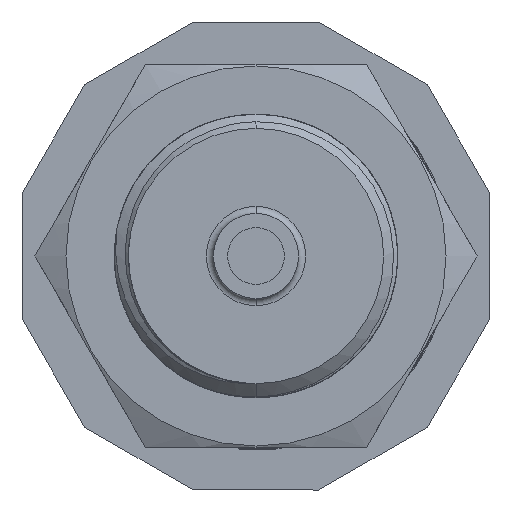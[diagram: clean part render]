
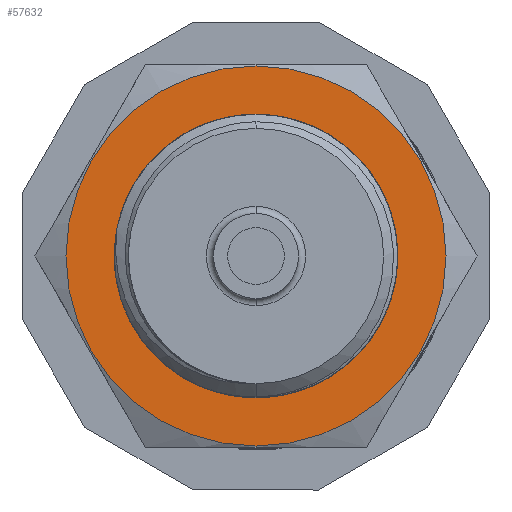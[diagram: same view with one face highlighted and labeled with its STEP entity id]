
A CAD part, front view. The second image highlights one B-rep face of the part: STEP entity #57632.
In plain terms, the highlighted planar face has unit normal (0, -1, 0).
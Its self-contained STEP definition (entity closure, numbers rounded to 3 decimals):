
#2467 = CIRCLE ( 'NONE', #36994, 8.85 ) ;
#4586 = DIRECTION ( 'NONE',  ( 0., -1., 0. ) ) ;
#6810 = ORIENTED_EDGE ( 'NONE', *, *, #23827, .T. ) ;
#7506 = AXIS2_PLACEMENT_3D ( 'NONE', #49257, #4586, #56769 ) ;
#7725 = CARTESIAN_POINT ( 'NONE',  ( 0., -10., 0. ) ) ;
#12731 = CIRCLE ( 'NONE', #7506, 13.4 ) ;
#14767 = VERTEX_POINT ( 'NONE', #40583 ) ;
#15226 = DIRECTION ( 'NONE',  ( -1., 0., 0. ) ) ;
#19644 = AXIS2_PLACEMENT_3D ( 'NONE', #41192, #93455, #48695 ) ;
#23827 = EDGE_CURVE ( 'NONE', #43258, #62381, #68868, .T. ) ;
#25650 = CARTESIAN_POINT ( 'NONE',  ( 0., -10., 0. ) ) ;
#27484 = EDGE_CURVE ( 'NONE', #14767, #52931, #2467, .T. ) ;
#33115 = DIRECTION ( 'NONE',  ( 0., 0., -1. ) ) ;
#36994 = AXIS2_PLACEMENT_3D ( 'NONE', #7725, #60002, #15226 ) ;
#40583 = CARTESIAN_POINT ( 'NONE',  ( -8.85, -10., 0. ) ) ;
#40631 = AXIS2_PLACEMENT_3D ( 'NONE', #44182, #88287, #59179 ) ;
#41192 = CARTESIAN_POINT ( 'NONE',  ( 0., -10., 0. ) ) ;
#43258 = VERTEX_POINT ( 'NONE', #68068 ) ;
#44182 = CARTESIAN_POINT ( 'NONE',  ( 0., -10., 0. ) ) ;
#48695 = DIRECTION ( 'NONE',  ( -1., 0., 0. ) ) ;
#49257 = CARTESIAN_POINT ( 'NONE',  ( 0., -10., 0. ) ) ;
#50973 = ORIENTED_EDGE ( 'NONE', *, *, #27484, .T. ) ;
#51635 = PLANE ( 'NONE',  #40631 ) ;
#52931 = VERTEX_POINT ( 'NONE', #79195 ) ;
#56769 = DIRECTION ( 'NONE',  ( 0., 0., -1. ) ) ;
#57632 = ADVANCED_FACE ( 'NONE', ( #74490, #91997 ), #51635, .T. ) ;
#59179 = DIRECTION ( 'NONE',  ( 0., 0., -1. ) ) ;
#60002 = DIRECTION ( 'NONE',  ( 0., 1., 0. ) ) ;
#62381 = VERTEX_POINT ( 'NONE', #80669 ) ;
#68068 = CARTESIAN_POINT ( 'NONE',  ( 0., -10., -13.4 ) ) ;
#68868 = CIRCLE ( 'NONE', #77356, 13.4 ) ;
#69192 = EDGE_LOOP ( 'NONE', ( #77233, #6810 ) ) ;
#74490 = FACE_OUTER_BOUND ( 'NONE', #69192, .T. ) ;
#77233 = ORIENTED_EDGE ( 'NONE', *, *, #84972, .T. ) ;
#77356 = AXIS2_PLACEMENT_3D ( 'NONE', #25650, #77891, #33115 ) ;
#77555 = CIRCLE ( 'NONE', #19644, 8.85 ) ;
#77891 = DIRECTION ( 'NONE',  ( 0., -1., 0. ) ) ;
#79195 = CARTESIAN_POINT ( 'NONE',  ( 8.85, -10., 0. ) ) ;
#79894 = EDGE_LOOP ( 'NONE', ( #50973, #88561 ) ) ;
#80669 = CARTESIAN_POINT ( 'NONE',  ( 0., -10., 13.4 ) ) ;
#84972 = EDGE_CURVE ( 'NONE', #62381, #43258, #12731, .T. ) ;
#87669 = EDGE_CURVE ( 'NONE', #52931, #14767, #77555, .T. ) ;
#88287 = DIRECTION ( 'NONE',  ( 0., -1., 0. ) ) ;
#88561 = ORIENTED_EDGE ( 'NONE', *, *, #87669, .T. ) ;
#91997 = FACE_BOUND ( 'NONE', #79894, .T. ) ;
#93455 = DIRECTION ( 'NONE',  ( 0., 1., 0. ) ) ;
